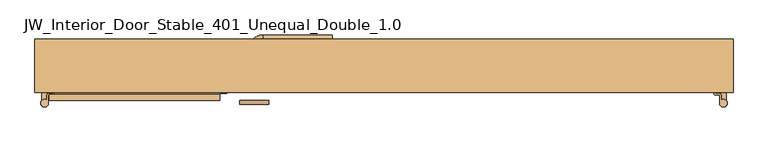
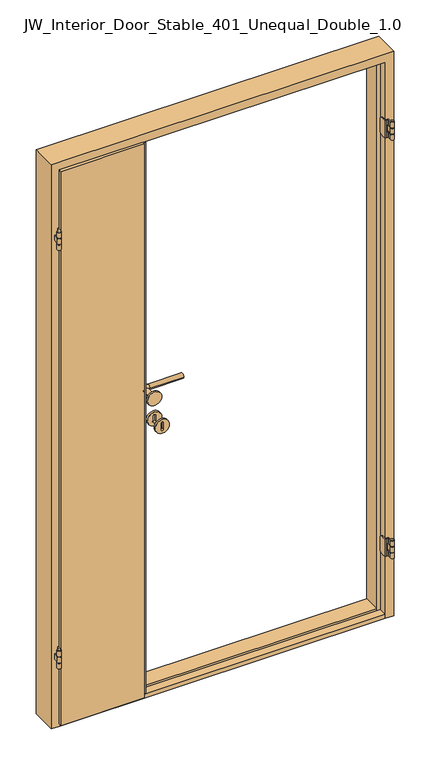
"""IFC4 building model written with IfcOpenShell, lengths in millimetres: door geometry, JW_Interior_Door_Stable_401_Unequal_Double_1.0 : 1290 x 2090 mm - M13 (M10+30) x M21."""

from ifc_helpers import new_model, si_unit, point, frame, frame_2d, origin, place, context, project, spatial, polyline, circle_curve, ellipse_curve, trimmed, segment, composite_curve, outline, extrude, faceted_brep, source, transform, mapped, element, save
from ifc_brep_helpers import plane_surface, cylinder_surface, revolved_surface, advanced_brep


def jw_interior_door_stable_401_unequal_double_1_0_84d4197c(model_context):
    return source(origin(), model_context, "Body", "SolidModel", [
        advanced_brep(
        [(-579.4018538, -63.3783893, 1847.5), (-576.904139, -68.4990677, 1847.5), (-576.904139, -54.9903905, 1847.5), (-576.0949734, -54.1812249, 1847.5), (-570.1129452, -54.1812249, 1847.5), (-566.9001557, -50.9684354, 1847.5), (-566.4114682, -41.6437223, 1847.5), (-566.1497884, -36.6505746, 1847.5), (-568.6463622, -36.5197347, 1847.5), (-568.908042, -41.5128824, 1847.5), (-569.4, -50.9, 1847.5), (-570.1997148, -51.6997148, 1847.5), (-576.2009982, -51.6997148, 1847.5), (-579.4018538, -54.9005704, 1847.5), (-579.4018538, -63.3783893, 1782.5), (-579.4018538, -54.9005704, 1782.5), (-576.2009982, -51.6997148, 1782.5), (-570.1997148, -51.6997148, 1782.5), (-569.4, -50.9, 1782.5), (-568.908042, -41.5128824, 1782.5), (-568.6463622, -36.5197347, 1782.5), (-566.1497884, -36.6505746, 1782.5), (-566.4114682, -41.6437223, 1782.5), (-566.9001557, -50.9684354, 1782.5), (-570.1129452, -54.1812249, 1782.5), (-576.0949734, -54.1812249, 1782.5), (-576.904139, -54.9903905, 1782.5), (-576.904139, -68.4990677, 1782.5), (-576.904139, -68.4990677, 1802.0), (-579.4018538, -63.3783893, 1802.0), (-579.4018538, -63.3783893, 1828.0), (-576.904139, -68.4990677, 1828.0), (-579.4018538, -54.9005704, 1802.0), (-579.4018538, -54.9005704, 1828.0), (-576.2009982, -51.6997148, 1802.0), (-576.2009982, -51.6997148, 1828.0), (-573.4, -51.6997148, 1802.0), (-573.4, -51.6997148, 1828.0), (-568.1230027, -26.5334394, 1837.5), (-568.1230027, -26.5334394, 1792.5), (-565.6264288, -26.6642792, 1837.5), (-565.6264288, -26.6642792, 1792.5), (-576.0949734, -54.1812249, 1828.0), (-573.4, -54.1812249, 1828.0), (-573.4, -54.1812249, 1802.0), (-576.0949734, -54.1812249, 1802.0), (-576.904139, -54.9903905, 1802.0), (-576.904139, -54.9903905, 1828.0)],
        [
            (0, 1, circle_curve(frame((-583.402064, -68.4990677, 1847.5), z_axis=(0.0, 0.0, 1.0), x_axis=(0.0, 1.0, 0.0)), 6.4979249)),
            (1, 2),
            (2, 3, circle_curve(frame((-576.0949734, -54.9903905, 1847.5), z_axis=(0.0, 0.0, -1.0), x_axis=(0.0, 1.0, 0.0)), 0.8091657)),
            (3, 4),
            (4, 5, circle_curve(frame((-570.1129452, -50.9684354, 1847.5), z_axis=(0.0, 0.0, 1.0), x_axis=(0.0, 1.0, 0.0)), 3.2127895)),
            (5, 6),
            (6, 7),
            (7, 8),
            (8, 9),
            (9, 10),
            (10, 11, circle_curve(frame((-570.1997148, -50.9, 1847.5), z_axis=(0.0, 0.0, -1.0), x_axis=(0.0, 1.0, 0.0)), 0.7997148)),
            (11, 12),
            (12, 13, circle_curve(frame((-576.2009982, -54.9005704, 1847.5), z_axis=(0.0, 0.0, 1.0), x_axis=(0.0, 1.0, 0.0)), 3.2008556)),
            (13, 0),
            (14, 15),
            (15, 16, circle_curve(frame((-576.2009982, -54.9005704, 1782.5), z_axis=(0.0, 0.0, -1.0), x_axis=(0.0, 1.0, 0.0)), 3.2008556)),
            (16, 17),
            (17, 18, circle_curve(frame((-570.1997148, -50.9, 1782.5), z_axis=(0.0, 0.0, 1.0), x_axis=(0.0, 1.0, 0.0)), 0.7997148)),
            (18, 19),
            (19, 20),
            (20, 21),
            (21, 22),
            (22, 23),
            (23, 24, circle_curve(frame((-570.1129452, -50.9684354, 1782.5), z_axis=(0.0, 0.0, -1.0), x_axis=(0.0, 1.0, 0.0)), 3.2127895)),
            (24, 25),
            (25, 26, circle_curve(frame((-576.0949734, -54.9903905, 1782.5), z_axis=(0.0, 0.0, 1.0), x_axis=(0.0, 1.0, 0.0)), 0.8091657)),
            (26, 27),
            (27, 14, circle_curve(frame((-583.402064, -68.4990677, 1782.5), z_axis=(0.0, 0.0, -1.0), x_axis=(0.0, 1.0, 0.0)), 6.4979249)),
            (27, 28),
            (28, 29, circle_curve(frame((-583.402064, -68.4990677, 1802.0), z_axis=(0.0, 0.0, -1.0), x_axis=(0.0, 1.0, 0.0)), 6.4979249)),
            (29, 14),
            (0, 30),
            (30, 31, circle_curve(frame((-583.402064, -68.4990677, 1828.0), z_axis=(0.0, 0.0, 1.0), x_axis=(0.0, 1.0, 0.0)), 6.4979249)),
            (31, 1),
            (29, 32),
            (32, 15),
            (13, 33),
            (33, 30),
            (32, 34, circle_curve(frame((-576.2009982, -54.9005704, 1802.0), z_axis=(0.0, 0.0, -1.0), x_axis=(0.0, 1.0, 0.0)), 3.2008556)),
            (34, 16),
            (12, 35),
            (35, 33, circle_curve(frame((-576.2009982, -54.9005704, 1828.0), z_axis=(0.0, 0.0, 1.0), x_axis=(0.0, 1.0, 0.0)), 3.2008556)),
            (11, 17),
            (34, 36),
            (36, 37),
            (37, 35),
            (10, 18),
            (8, 38, circle_curve(frame((-568.6463622, -36.5197347, 1837.5), z_axis=(-0.9986295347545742, 0.05233595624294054, 0.0), x_axis=(-0.05233595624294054, -0.9986295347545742, 0.0)), 10.0)),
            (38, 39),
            (39, 20, circle_curve(frame((-568.6463622, -36.5197347, 1792.5), z_axis=(-0.9986295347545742, 0.05233595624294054, 0.0), x_axis=(-0.05233595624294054, -0.9986295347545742, 0.0)), 10.0)),
            (38, 40),
            (40, 41),
            (41, 39),
            (21, 41, circle_curve(frame((-566.1497884, -36.6505746, 1792.5), z_axis=(0.9986295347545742, -0.05233595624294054, 0.0), x_axis=(-0.05233595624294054, -0.9986295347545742, 0.0)), 10.0)),
            (40, 7, circle_curve(frame((-566.1497884, -36.6505746, 1837.5), z_axis=(0.9986295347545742, -0.05233595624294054, 0.0), x_axis=(-0.05233595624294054, -0.9986295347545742, 0.0)), 10.0)),
            (5, 23),
            (4, 24),
            (3, 42),
            (42, 43),
            (43, 44),
            (44, 45),
            (45, 25),
            (45, 46, circle_curve(frame((-576.0949734, -54.9903905, 1802.0), z_axis=(0.0, 0.0, 1.0), x_axis=(0.0, 1.0, 0.0)), 0.8091657)),
            (46, 26),
            (2, 47),
            (47, 42, circle_curve(frame((-576.0949734, -54.9903905, 1828.0), z_axis=(0.0, 0.0, -1.0), x_axis=(0.0, 1.0, 0.0)), 0.8091657)),
            (31, 47),
            (46, 28),
            (37, 43),
            (44, 36),
        ],
        [
            plane_surface(frame((-579.4018538, -54.9005704, 1847.5), z_axis=(0.0, 0.0, 1.0), x_axis=(0.0, 1.0, 0.0))),
            plane_surface(frame((-579.4018538, -54.9005704, 1782.5), z_axis=(0.0, 0.0, -1.0), x_axis=(0.0, -1.0, 0.0))),
            cylinder_surface(frame((-583.402064, -68.4990677, 1782.5), z_axis=(0.0, 0.0, 1.0), x_axis=(0.0, 1.0, 0.0)), 6.4979249),
            plane_surface(frame((-579.4018538, -63.3783893, 1847.5), z_axis=(-1.0, 0.0, 0.0), x_axis=(0.0, 0.0, -1.0))),
            cylinder_surface(frame((-576.2009982, -54.9005704, 1782.5), z_axis=(0.0, 0.0, 1.0), x_axis=(0.0, 1.0, 0.0)), 3.2008556),
            plane_surface(frame((-576.2009982, -51.6997148, 1847.5), z_axis=(0.0, 1.0, 0.0), x_axis=(0.0, 0.0, -1.0))),
            revolved_surface(polyline([(-570.1997148, -50.1002852, 1782.5), (-570.1997148, -50.1002852, 1847.5)]), (-570.1997148, -50.9, 1782.5), (0.0, 0.0, -1.0)),
            plane_surface(frame((-569.4, -50.9, 1847.5), z_axis=(-0.9986295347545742, 0.05233595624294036, 0.0), x_axis=(0.0, 0.0, -1.0))),
            plane_surface(frame((-568.1230027, -26.5334394, 1847.5), z_axis=(0.05233595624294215, 0.998629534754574, 0.0), x_axis=(0.0, 0.0, -1.0))),
            plane_surface(frame((-565.6264288, -26.6642792, 1847.5), z_axis=(0.9986295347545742, -0.05233595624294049, 0.0), x_axis=(0.0, 0.0, -1.0))),
            cylinder_surface(frame((-570.1129452, -50.9684354, 1782.5), z_axis=(0.0, 0.0, 1.0), x_axis=(0.0, 1.0, 0.0)), 3.2127895),
            plane_surface(frame((-570.1129452, -54.1812249, 1847.5), z_axis=(0.0, -1.0, 0.0), x_axis=(0.0, 0.0, -1.0))),
            revolved_surface(polyline([(-576.0949734, -54.181224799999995, 1782.5), (-576.0949734, -54.181224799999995, 1802.0)]), (-576.0949734, -54.9903905, 1782.5), (0.0, 0.0, -1.0)),
            revolved_surface(polyline([(-576.0949734, -54.181224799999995, 1828.0), (-576.0949734, -54.181224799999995, 1847.5)]), (-576.0949734, -54.9903905, 1782.5), (0.0, 0.0, -1.0)),
            plane_surface(frame((-576.904139, -54.9903905, 1847.5), z_axis=(1.0, 0.0, 0.0), x_axis=(0.0, 0.0, -1.0))),
            plane_surface(frame((-590.9849846, -78.5564762, 1828.0), z_axis=(0.0, 0.0, -1.0), x_axis=(-1.0, 0.0, 0.0))),
            plane_surface(frame((-590.9849846, -78.5564762, 1802.0), z_axis=(0.0, 0.0, 1.0), x_axis=(1.0, 0.0, 0.0))),
            plane_surface(frame((-573.4, -48.5564762, 1828.0), z_axis=(-1.0, 0.0, 0.0), x_axis=(0.0, 0.0, -1.0))),
            cylinder_surface(frame((-573.6395099, -36.2580549, 1792.5), z_axis=(-0.9986295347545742, 0.05233595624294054, 0.0), x_axis=(-0.05233595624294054, -0.9986295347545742, 0.0)), 10.0),
            cylinder_surface(frame((-573.6395099, -36.2580549, 1837.5), z_axis=(-0.9986295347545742, 0.05233595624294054, 0.0), x_axis=(-0.05233595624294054, -0.9986295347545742, 0.0)), 10.0),
        ],
        [
            (0, [[1, 2, 3, 4, 5, 6, 7, 8, 9, 10, 11, 12, 13, 14]]),
            (1, [[15, 16, 17, 18, 19, 20, 21, 22, 23, 24, 25, 26, 27, 28]]),
            (2, [[29, 30, 31, -28]]),
            (2, [[32, 33, 34, -1]]),
            (3, [[-31, 35, 36, -15]]),
            (3, [[37, 38, -32, -14]]),
            (4, [[-36, 39, 40, -16]]),
            (4, [[41, 42, -37, -13]]),
            (5, [[43, -17, -40, 44, 45, 46, -41, -12]]),
            (6, [[47, -18, -43, -11]]),
            (7, [[-10, -9, 48, 49, 50, -20, -19, -47]]),
            (8, [[51, 52, 53, -49]]),
            (9, [[-23, -22, 54, -52, 55, -7, -6, 56]]),
            (10, [[57, -24, -56, -5]]),
            (11, [[58, 59, 60, 61, 62, -25, -57, -4]]),
            (12, [[-62, 63, 64, -26]]),
            (13, [[65, 66, -58, -3]]),
            (14, [[-34, 67, -65, -2]]),
            (14, [[-64, 68, -29, -27]]),
            (15, [[-59, -66, -67, -33, -38, -42, -46, 69]]),
            (16, [[-44, -39, -35, -30, -68, -63, -61, 70]]),
            (17, [[-45, -70, -60, -69]]),
            (18, [[-50, -53, -54, -21]]),
            (19, [[-55, -51, -48, -8]]),
        ],
    ),
        extrude(outline(composite_curve([segment(trimmed(circle_curve(frame_2d((-583.4, -68.5)), 3.75), [point((-579.65, -68.5))], [point((-587.15, -68.5))], False, "CARTESIAN"), True, "CONTINUOUS"), segment(trimmed(circle_curve(frame_2d((-583.4, -68.5)), 3.75), [point((-587.15, -68.5))], [point((-579.65, -68.5))], False, "CARTESIAN"), True, "CONTINUOUS")], self_intersect=False)), frame((0.0, 0.0, 1782.5), z_axis=(0.0, 0.0, 1.0), x_axis=(1.0, 0.0, 0.0)), (0.0, 0.0, 1.0), 65.0),
        extrude(outline(composite_curve([segment(polyline([(-588.4, -64.3466881), (-588.4, -50.0), (-578.4, -50.0), (-578.4, -64.3466881)]), True, "CONTINUOUS"), segment(trimmed(circle_curve(frame_2d((-583.4, -68.5)), 6.5), [point((-578.4, -64.3466881))], [point((-588.4, -64.3466881))], False, "CARTESIAN"), True, "CONTINUOUS")], self_intersect=False)), frame((0.0, 0.0, 1805.0), z_axis=(0.0, 0.0, 1.0), x_axis=(1.0, 0.0, 0.0)), (0.0, 0.0, 1.0), 20.0),
        advanced_brep(
        [(-579.4018538, -63.3783893, 297.5), (-576.904139, -68.4990677, 297.5), (-576.904139, -54.9903905, 297.5), (-576.0949734, -54.1812249, 297.5), (-570.1129452, -54.1812249, 297.5), (-566.9001557, -50.9684354, 297.5), (-566.4114682, -41.6437223, 297.5), (-566.1497884, -36.6505746, 297.5), (-568.6463622, -36.5197347, 297.5), (-568.908042, -41.5128824, 297.5), (-569.4, -50.9, 297.5), (-570.1997148, -51.6997148, 297.5), (-576.2009982, -51.6997148, 297.5), (-579.4018538, -54.9005704, 297.5), (-579.4018538, -63.3783893, 232.5), (-579.4018538, -54.9005704, 232.5), (-576.2009982, -51.6997148, 232.5), (-570.1997148, -51.6997148, 232.5), (-569.4, -50.9, 232.5), (-568.908042, -41.5128824, 232.5), (-568.6463622, -36.5197347, 232.5), (-566.1497884, -36.6505746, 232.5), (-566.4114682, -41.6437223, 232.5), (-566.9001557, -50.9684354, 232.5), (-570.1129452, -54.1812249, 232.5), (-576.0949734, -54.1812249, 232.5), (-576.904139, -54.9903905, 232.5), (-576.904139, -68.4990677, 232.5), (-576.904139, -68.4990677, 252.0), (-579.4018538, -63.3783893, 252.0), (-579.4018538, -63.3783893, 278.0), (-576.904139, -68.4990677, 278.0), (-579.4018538, -54.9005704, 252.0), (-579.4018538, -54.9005704, 278.0), (-576.2009982, -51.6997148, 252.0), (-576.2009982, -51.6997148, 278.0), (-573.4, -51.6997148, 252.0), (-573.4, -51.6997148, 278.0), (-568.1230027, -26.5334394, 287.5), (-568.1230027, -26.5334394, 242.5), (-565.6264288, -26.6642792, 287.5), (-565.6264288, -26.6642792, 242.5), (-576.0949734, -54.1812249, 278.0), (-573.4, -54.1812249, 278.0), (-573.4, -54.1812249, 252.0), (-576.0949734, -54.1812249, 252.0), (-576.904139, -54.9903905, 252.0), (-576.904139, -54.9903905, 278.0)],
        [
            (0, 1, circle_curve(frame((-583.402064, -68.4990677, 297.5), z_axis=(0.0, 0.0, 1.0), x_axis=(0.0, 1.0, 0.0)), 6.4979249)),
            (1, 2),
            (2, 3, circle_curve(frame((-576.0949734, -54.9903905, 297.5), z_axis=(0.0, 0.0, -1.0), x_axis=(0.0, 1.0, 0.0)), 0.8091657)),
            (3, 4),
            (4, 5, circle_curve(frame((-570.1129452, -50.9684354, 297.5), z_axis=(0.0, 0.0, 1.0), x_axis=(0.0, 1.0, 0.0)), 3.2127895)),
            (5, 6),
            (6, 7),
            (7, 8),
            (8, 9),
            (9, 10),
            (10, 11, circle_curve(frame((-570.1997148, -50.9, 297.5), z_axis=(0.0, 0.0, -1.0), x_axis=(0.0, 1.0, 0.0)), 0.7997148)),
            (11, 12),
            (12, 13, circle_curve(frame((-576.2009982, -54.9005704, 297.5), z_axis=(0.0, 0.0, 1.0), x_axis=(0.0, 1.0, 0.0)), 3.2008556)),
            (13, 0),
            (14, 15),
            (15, 16, circle_curve(frame((-576.2009982, -54.9005704, 232.5), z_axis=(0.0, 0.0, -1.0), x_axis=(0.0, 1.0, 0.0)), 3.2008556)),
            (16, 17),
            (17, 18, circle_curve(frame((-570.1997148, -50.9, 232.5), z_axis=(0.0, 0.0, 1.0), x_axis=(0.0, 1.0, 0.0)), 0.7997148)),
            (18, 19),
            (19, 20),
            (20, 21),
            (21, 22),
            (22, 23),
            (23, 24, circle_curve(frame((-570.1129452, -50.9684354, 232.5), z_axis=(0.0, 0.0, -1.0), x_axis=(0.0, 1.0, 0.0)), 3.2127895)),
            (24, 25),
            (25, 26, circle_curve(frame((-576.0949734, -54.9903905, 232.5), z_axis=(0.0, 0.0, 1.0), x_axis=(0.0, 1.0, 0.0)), 0.8091657)),
            (26, 27),
            (27, 14, circle_curve(frame((-583.402064, -68.4990677, 232.5), z_axis=(0.0, 0.0, -1.0), x_axis=(0.0, 1.0, 0.0)), 6.4979249)),
            (27, 28),
            (28, 29, circle_curve(frame((-583.402064, -68.4990677, 252.0), z_axis=(0.0, 0.0, -1.0), x_axis=(0.0, 1.0, 0.0)), 6.4979249)),
            (29, 14),
            (0, 30),
            (30, 31, circle_curve(frame((-583.402064, -68.4990677, 278.0), z_axis=(0.0, 0.0, 1.0), x_axis=(0.0, 1.0, 0.0)), 6.4979249)),
            (31, 1),
            (29, 32),
            (32, 15),
            (13, 33),
            (33, 30),
            (32, 34, circle_curve(frame((-576.2009982, -54.9005704, 252.0), z_axis=(0.0, 0.0, -1.0), x_axis=(0.0, 1.0, 0.0)), 3.2008556)),
            (34, 16),
            (12, 35),
            (35, 33, circle_curve(frame((-576.2009982, -54.9005704, 278.0), z_axis=(0.0, 0.0, 1.0), x_axis=(0.0, 1.0, 0.0)), 3.2008556)),
            (11, 17),
            (34, 36),
            (36, 37),
            (37, 35),
            (10, 18),
            (8, 38, circle_curve(frame((-568.6463622, -36.5197347, 287.5), z_axis=(-0.9986295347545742, 0.05233595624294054, 0.0), x_axis=(-0.05233595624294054, -0.9986295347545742, 0.0)), 10.0)),
            (38, 39),
            (39, 20, circle_curve(frame((-568.6463622, -36.5197347, 242.5), z_axis=(-0.9986295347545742, 0.05233595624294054, 0.0), x_axis=(-0.05233595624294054, -0.9986295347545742, 0.0)), 10.0)),
            (38, 40),
            (40, 41),
            (41, 39),
            (21, 41, circle_curve(frame((-566.1497884, -36.6505746, 242.5), z_axis=(0.9986295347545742, -0.05233595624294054, 0.0), x_axis=(-0.05233595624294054, -0.9986295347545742, 0.0)), 10.0)),
            (40, 7, circle_curve(frame((-566.1497884, -36.6505746, 287.5), z_axis=(0.9986295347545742, -0.05233595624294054, 0.0), x_axis=(-0.05233595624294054, -0.9986295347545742, 0.0)), 10.0)),
            (5, 23),
            (4, 24),
            (3, 42),
            (42, 43),
            (43, 44),
            (44, 45),
            (45, 25),
            (45, 46, circle_curve(frame((-576.0949734, -54.9903905, 252.0), z_axis=(0.0, 0.0, 1.0), x_axis=(0.0, 1.0, 0.0)), 0.8091657)),
            (46, 26),
            (2, 47),
            (47, 42, circle_curve(frame((-576.0949734, -54.9903905, 278.0), z_axis=(0.0, 0.0, -1.0), x_axis=(0.0, 1.0, 0.0)), 0.8091657)),
            (31, 47),
            (46, 28),
            (37, 43),
            (44, 36),
        ],
        [
            plane_surface(frame((-579.4018538, -54.9005704, 297.5), z_axis=(0.0, 0.0, 1.0), x_axis=(0.0, 1.0, 0.0))),
            plane_surface(frame((-579.4018538, -54.9005704, 232.5), z_axis=(0.0, 0.0, -1.0), x_axis=(0.0, -1.0, 0.0))),
            cylinder_surface(frame((-583.402064, -68.4990677, 232.5), z_axis=(0.0, 0.0, 1.0), x_axis=(0.0, 1.0, 0.0)), 6.4979249),
            plane_surface(frame((-579.4018538, -63.3783893, 297.5), z_axis=(-1.0, 0.0, 0.0), x_axis=(0.0, 0.0, -1.0))),
            cylinder_surface(frame((-576.2009982, -54.9005704, 232.5), z_axis=(0.0, 0.0, 1.0), x_axis=(0.0, 1.0, 0.0)), 3.2008556),
            plane_surface(frame((-576.2009982, -51.6997148, 297.5), z_axis=(0.0, 1.0, 0.0), x_axis=(0.0, 0.0, -1.0))),
            revolved_surface(polyline([(-570.1997148, -50.1002852, 232.5), (-570.1997148, -50.1002852, 297.5)]), (-570.1997148, -50.9, 232.5), (0.0, 0.0, -1.0)),
            plane_surface(frame((-569.4, -50.9, 297.5), z_axis=(-0.9986295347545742, 0.05233595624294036, 0.0), x_axis=(0.0, 0.0, -1.0))),
            plane_surface(frame((-568.1230027, -26.5334394, 297.5), z_axis=(0.05233595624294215, 0.998629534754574, 0.0), x_axis=(0.0, 0.0, -1.0))),
            plane_surface(frame((-565.6264288, -26.6642792, 297.5), z_axis=(0.9986295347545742, -0.05233595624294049, 0.0), x_axis=(0.0, 0.0, -1.0))),
            cylinder_surface(frame((-570.1129452, -50.9684354, 232.5), z_axis=(0.0, 0.0, 1.0), x_axis=(0.0, 1.0, 0.0)), 3.2127895),
            plane_surface(frame((-570.1129452, -54.1812249, 297.5), z_axis=(0.0, -1.0, 0.0), x_axis=(0.0, 0.0, -1.0))),
            revolved_surface(polyline([(-576.0949734, -54.181224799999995, 232.5), (-576.0949734, -54.181224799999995, 252.0)]), (-576.0949734, -54.9903905, 232.5), (0.0, 0.0, -1.0)),
            revolved_surface(polyline([(-576.0949734, -54.181224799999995, 278.0), (-576.0949734, -54.181224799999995, 297.5)]), (-576.0949734, -54.9903905, 232.5), (0.0, 0.0, -1.0)),
            plane_surface(frame((-576.904139, -54.9903905, 297.5), z_axis=(1.0, 0.0, 0.0), x_axis=(0.0, 0.0, -1.0))),
            plane_surface(frame((-590.9849846, -78.5564762, 278.0), z_axis=(0.0, 0.0, -1.0), x_axis=(-1.0, 0.0, 0.0))),
            plane_surface(frame((-590.9849846, -78.5564762, 252.0), z_axis=(0.0, 0.0, 1.0), x_axis=(1.0, 0.0, 0.0))),
            plane_surface(frame((-573.4, -48.5564762, 278.0), z_axis=(-1.0, 0.0, 0.0), x_axis=(0.0, 0.0, -1.0))),
            cylinder_surface(frame((-573.6395099, -36.2580549, 242.5), z_axis=(-0.9986295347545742, 0.05233595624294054, 0.0), x_axis=(-0.05233595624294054, -0.9986295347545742, 0.0)), 10.0),
            cylinder_surface(frame((-573.6395099, -36.2580549, 287.5), z_axis=(-0.9986295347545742, 0.05233595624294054, 0.0), x_axis=(-0.05233595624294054, -0.9986295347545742, 0.0)), 10.0),
        ],
        [
            (0, [[1, 2, 3, 4, 5, 6, 7, 8, 9, 10, 11, 12, 13, 14]]),
            (1, [[15, 16, 17, 18, 19, 20, 21, 22, 23, 24, 25, 26, 27, 28]]),
            (2, [[29, 30, 31, -28]]),
            (2, [[32, 33, 34, -1]]),
            (3, [[-31, 35, 36, -15]]),
            (3, [[37, 38, -32, -14]]),
            (4, [[-36, 39, 40, -16]]),
            (4, [[41, 42, -37, -13]]),
            (5, [[43, -17, -40, 44, 45, 46, -41, -12]]),
            (6, [[47, -18, -43, -11]]),
            (7, [[-10, -9, 48, 49, 50, -20, -19, -47]]),
            (8, [[51, 52, 53, -49]]),
            (9, [[-23, -22, 54, -52, 55, -7, -6, 56]]),
            (10, [[57, -24, -56, -5]]),
            (11, [[58, 59, 60, 61, 62, -25, -57, -4]]),
            (12, [[-62, 63, 64, -26]]),
            (13, [[65, 66, -58, -3]]),
            (14, [[-34, 67, -65, -2]]),
            (14, [[-64, 68, -29, -27]]),
            (15, [[-59, -66, -67, -33, -38, -42, -46, 69]]),
            (16, [[-44, -39, -35, -30, -68, -63, -61, 70]]),
            (17, [[-45, -70, -60, -69]]),
            (18, [[-50, -53, -54, -21]]),
            (19, [[-55, -51, -48, -8]]),
        ],
    ),
        extrude(outline(composite_curve([segment(trimmed(circle_curve(frame_2d((-583.4, -68.5)), 3.75), [point((-579.65, -68.5))], [point((-587.15, -68.5))], False, "CARTESIAN"), True, "CONTINUOUS"), segment(trimmed(circle_curve(frame_2d((-583.4, -68.5)), 3.75), [point((-587.15, -68.5))], [point((-579.65, -68.5))], False, "CARTESIAN"), True, "CONTINUOUS")], self_intersect=False)), frame((0.0, 0.0, 232.5), z_axis=(0.0, 0.0, 1.0), x_axis=(1.0, 0.0, 0.0)), (0.0, 0.0, 1.0), 65.0),
        extrude(outline(composite_curve([segment(polyline([(-588.4, -64.3466881), (-588.4, -50.0), (-578.4, -50.0), (-578.4, -64.3466881)]), True, "CONTINUOUS"), segment(trimmed(circle_curve(frame_2d((-583.4, -68.5)), 6.5), [point((-578.4, -64.3466881))], [point((-588.4, -64.3466881))], False, "CARTESIAN"), True, "CONTINUOUS")], self_intersect=False)), frame((0.0, 0.0, 255.0), z_axis=(0.0, 0.0, 1.0), x_axis=(1.0, 0.0, 0.0)), (0.0, 0.0, 1.0), 20.0),
        faceted_brep([(-270.0, -23.5, 18.0), (-564.9021956, -23.5, 18.0), (-564.9021956, -23.5, 2058.0), (-270.0, -23.5, 2058.0), (-270.0, -51.5, 2058.0), (-270.0, -51.5, 18.0), (-567.0, -53.5, 18.0), (-567.0, -53.5, 2058.0), (-282.0, -51.5, 18.0), (-282.0, -53.5, 18.0), (-575.0, -63.5, 12.0), (-282.0, -63.5, 12.0), (-282.0, -63.5, 2064.0), (-575.0, -63.5, 2064.0), (-575.0, -53.5, 2064.0), (-575.0, -53.5, 12.0), (-282.0, -53.5, 12.0), (-282.0, -53.5, 2064.0), (-282.0, -53.5, 2058.0), (-282.0, -51.5, 2058.0)], [[[0, 1, 2, 3]], [[3, 4, 5, 0]], [[1, 6, 7, 2]], [[6, 1, 0, 5, 8, 9]], [[10, 11, 12, 13]], [[13, 14, 15, 10]], [[10, 15, 16, 11]], [[16, 15, 14, 17, 18, 7, 6, 9]], [[4, 19, 8, 5]], [[12, 17, 14, 13]], [[18, 19, 4, 3, 2, 7]], [[11, 16, 9, 8, 19, 18, 17, 12]]]),
        advanced_brep(
        [(579.4018538, -63.3783893, 1847.5), (579.4018538, -54.9005704, 1847.5), (576.2009982, -51.6997148, 1847.5), (570.1997148, -51.6997148, 1847.5), (569.4, -50.9, 1847.5), (568.908042, -41.5128824, 1847.5), (568.6463622, -36.5197347, 1847.5), (566.1497884, -36.6505746, 1847.5), (566.4114682, -41.6437223, 1847.5), (566.9001557, -50.9684354, 1847.5), (570.1129452, -54.1812249, 1847.5), (576.0949734, -54.1812249, 1847.5), (576.904139, -54.9903905, 1847.5), (576.904139, -68.4990677, 1847.5), (579.4018538, -63.3783893, 1782.5), (576.904139, -68.4990677, 1782.5), (576.904139, -54.9903905, 1782.5), (576.0949734, -54.1812249, 1782.5), (570.1129452, -54.1812249, 1782.5), (566.9001557, -50.9684354, 1782.5), (566.4114682, -41.6437223, 1782.5), (566.1497884, -36.6505746, 1782.5), (568.6463622, -36.5197347, 1782.5), (568.908042, -41.5128824, 1782.5), (569.4, -50.9, 1782.5), (570.1997148, -51.6997148, 1782.5), (576.2009982, -51.6997148, 1782.5), (579.4018538, -54.9005704, 1782.5), (576.904139, -68.4990677, 1828.0), (579.4018538, -63.3783893, 1828.0), (579.4018538, -63.3783893, 1802.0), (576.904139, -68.4990677, 1802.0), (579.4018538, -54.9005704, 1828.0), (579.4018538, -54.9005704, 1802.0), (576.2009982, -51.6997148, 1828.0), (576.2009982, -51.6997148, 1802.0), (573.4, -51.6997148, 1828.0), (573.4, -51.6997148, 1802.0), (568.1230027, -26.5334394, 1792.5), (568.1230027, -26.5334394, 1837.5), (565.6264288, -26.6642792, 1792.5), (565.6264288, -26.6642792, 1837.5), (576.0949734, -54.1812249, 1802.0), (573.4, -54.1812249, 1802.0), (573.4, -54.1812249, 1828.0), (576.0949734, -54.1812249, 1828.0), (576.904139, -54.9903905, 1828.0), (576.904139, -54.9903905, 1802.0)],
        [
            (0, 1),
            (1, 2, circle_curve(frame((576.2009982, -54.9005704, 1847.5), z_axis=(0.0, 0.0, 1.0), x_axis=(0.0, 1.0, 0.0)), 3.2008556)),
            (2, 3),
            (3, 4, circle_curve(frame((570.1997148, -50.9, 1847.5), z_axis=(0.0, 0.0, -1.0), x_axis=(0.0, 1.0, 0.0)), 0.7997148)),
            (4, 5),
            (5, 6),
            (6, 7),
            (7, 8),
            (8, 9),
            (9, 10, circle_curve(frame((570.1129452, -50.9684354, 1847.5), z_axis=(0.0, 0.0, 1.0), x_axis=(0.0, 1.0, 0.0)), 3.2127895)),
            (10, 11),
            (11, 12, circle_curve(frame((576.0949734, -54.9903905, 1847.5), z_axis=(0.0, 0.0, -1.0), x_axis=(0.0, 1.0, 0.0)), 0.8091657)),
            (12, 13),
            (13, 0, circle_curve(frame((583.402064, -68.4990677, 1847.5), z_axis=(0.0, 0.0, 1.0), x_axis=(0.0, 1.0, 0.0)), 6.4979249)),
            (14, 15, circle_curve(frame((583.402064, -68.4990677, 1782.5), z_axis=(0.0, 0.0, -1.0), x_axis=(0.0, 1.0, 0.0)), 6.4979249)),
            (15, 16),
            (16, 17, circle_curve(frame((576.0949734, -54.9903905, 1782.5), z_axis=(0.0, 0.0, 1.0), x_axis=(0.0, 1.0, 0.0)), 0.8091657)),
            (17, 18),
            (18, 19, circle_curve(frame((570.1129452, -50.9684354, 1782.5), z_axis=(0.0, 0.0, -1.0), x_axis=(0.0, 1.0, 0.0)), 3.2127895)),
            (19, 20),
            (20, 21),
            (21, 22),
            (22, 23),
            (23, 24),
            (24, 25, circle_curve(frame((570.1997148, -50.9, 1782.5), z_axis=(0.0, 0.0, 1.0), x_axis=(0.0, 1.0, 0.0)), 0.7997148)),
            (25, 26),
            (26, 27, circle_curve(frame((576.2009982, -54.9005704, 1782.5), z_axis=(0.0, 0.0, -1.0), x_axis=(0.0, 1.0, 0.0)), 3.2008556)),
            (27, 14),
            (13, 28),
            (28, 29, circle_curve(frame((583.402064, -68.4990677, 1828.0), z_axis=(0.0, 0.0, 1.0), x_axis=(0.0, 1.0, 0.0)), 6.4979249)),
            (29, 0),
            (14, 30),
            (30, 31, circle_curve(frame((583.402064, -68.4990677, 1802.0), z_axis=(0.0, 0.0, -1.0), x_axis=(0.0, 1.0, 0.0)), 6.4979249)),
            (31, 15),
            (29, 32),
            (32, 1),
            (27, 33),
            (33, 30),
            (32, 34, circle_curve(frame((576.2009982, -54.9005704, 1828.0), z_axis=(0.0, 0.0, 1.0), x_axis=(0.0, 1.0, 0.0)), 3.2008556)),
            (34, 2),
            (26, 35),
            (35, 33, circle_curve(frame((576.2009982, -54.9005704, 1802.0), z_axis=(0.0, 0.0, -1.0), x_axis=(0.0, 1.0, 0.0)), 3.2008556)),
            (34, 36),
            (36, 37),
            (37, 35),
            (25, 3),
            (24, 4),
            (22, 38, circle_curve(frame((568.6463622, -36.5197347, 1792.5), z_axis=(0.9986295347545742, 0.05233595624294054, 0.0), x_axis=(0.05233595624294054, -0.9986295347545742, 0.0)), 10.0)),
            (38, 39),
            (39, 6, circle_curve(frame((568.6463622, -36.5197347, 1837.5), z_axis=(0.9986295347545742, 0.05233595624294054, 0.0), x_axis=(0.05233595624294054, -0.9986295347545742, 0.0)), 10.0)),
            (38, 40),
            (40, 41),
            (41, 39),
            (19, 9),
            (7, 41, circle_curve(frame((566.1497884, -36.6505746, 1837.5), z_axis=(-0.9986295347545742, -0.05233595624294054, 0.0), x_axis=(0.05233595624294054, -0.9986295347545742, 0.0)), 10.0)),
            (40, 21, circle_curve(frame((566.1497884, -36.6505746, 1792.5), z_axis=(-0.9986295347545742, -0.05233595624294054, 0.0), x_axis=(0.05233595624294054, -0.9986295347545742, 0.0)), 10.0)),
            (18, 10),
            (17, 42),
            (42, 43),
            (43, 44),
            (44, 45),
            (45, 11),
            (45, 46, circle_curve(frame((576.0949734, -54.9903905, 1828.0), z_axis=(0.0, 0.0, -1.0), x_axis=(0.0, 1.0, 0.0)), 0.8091657)),
            (46, 12),
            (16, 47),
            (47, 42, circle_curve(frame((576.0949734, -54.9903905, 1802.0), z_axis=(0.0, 0.0, 1.0), x_axis=(0.0, 1.0, 0.0)), 0.8091657)),
            (46, 28),
            (31, 47),
            (44, 36),
            (37, 43),
        ],
        [
            plane_surface(frame((579.4018538, -54.9005704, 1847.5), z_axis=(0.0, 0.0, 1.0), x_axis=(0.0, 1.0, 0.0))),
            plane_surface(frame((579.4018538, -54.9005704, 1782.5), z_axis=(0.0, 0.0, -1.0), x_axis=(0.0, -1.0, 0.0))),
            cylinder_surface(frame((583.402064, -68.4990677, 1782.5), z_axis=(0.0, 0.0, 1.0), x_axis=(0.0, 1.0, 0.0)), 6.4979249),
            plane_surface(frame((579.4018538, -63.3783893, 1847.5), z_axis=(1.0, 0.0, 0.0), x_axis=(0.0, 0.0, -1.0))),
            cylinder_surface(frame((576.2009982, -54.9005704, 1782.5), z_axis=(0.0, 0.0, 1.0), x_axis=(0.0, 1.0, 0.0)), 3.2008556),
            plane_surface(frame((576.2009982, -51.6997148, 1847.5), z_axis=(0.0, 1.0, 0.0), x_axis=(0.0, 0.0, -1.0))),
            revolved_surface(polyline([(570.1997148, -50.1002852, 1782.5), (570.1997148, -50.1002852, 1847.5)]), (570.1997148, -50.9, 1782.5), (0.0, 0.0, -1.0)),
            plane_surface(frame((569.4, -50.9, 1847.5), z_axis=(0.9986295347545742, 0.05233595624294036, 0.0), x_axis=(0.0, 0.0, -1.0))),
            plane_surface(frame((568.1230027, -26.5334394, 1847.5), z_axis=(-0.05233595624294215, 0.998629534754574, 0.0), x_axis=(0.0, 0.0, -1.0))),
            plane_surface(frame((565.6264288, -26.6642792, 1847.5), z_axis=(-0.9986295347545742, -0.05233595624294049, 0.0), x_axis=(0.0, 0.0, -1.0))),
            cylinder_surface(frame((570.1129452, -50.9684354, 1782.5), z_axis=(0.0, 0.0, 1.0), x_axis=(0.0, 1.0, 0.0)), 3.2127895),
            plane_surface(frame((570.1129452, -54.1812249, 1847.5), z_axis=(0.0, -1.0, 0.0), x_axis=(0.0, 0.0, -1.0))),
            revolved_surface(polyline([(576.0949734, -54.181224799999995, 1828.0), (576.0949734, -54.181224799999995, 1847.5)]), (576.0949734, -54.9903905, 1782.5), (0.0, 0.0, -1.0)),
            revolved_surface(polyline([(576.0949734, -54.181224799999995, 1782.5), (576.0949734, -54.181224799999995, 1802.0)]), (576.0949734, -54.9903905, 1782.5), (0.0, 0.0, -1.0)),
            plane_surface(frame((576.904139, -54.9903905, 1847.5), z_axis=(-1.0, 0.0, 0.0), x_axis=(0.0, 0.0, -1.0))),
            plane_surface(frame((590.9849846, -78.5564762, 1828.0), z_axis=(0.0, 0.0, -1.0), x_axis=(1.0, 0.0, 0.0))),
            plane_surface(frame((590.9849846, -78.5564762, 1802.0), z_axis=(0.0, 0.0, 1.0), x_axis=(-1.0, 0.0, 0.0))),
            plane_surface(frame((573.4, -48.5564762, 1828.0), z_axis=(1.0, 0.0, 0.0), x_axis=(0.0, 0.0, -1.0))),
            cylinder_surface(frame((573.6395099, -36.2580549, 1792.5), z_axis=(0.9986295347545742, 0.05233595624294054, 0.0), x_axis=(0.05233595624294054, -0.9986295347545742, 0.0)), 10.0),
            cylinder_surface(frame((573.6395099, -36.2580549, 1837.5), z_axis=(0.9986295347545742, 0.05233595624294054, 0.0), x_axis=(0.05233595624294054, -0.9986295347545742, 0.0)), 10.0),
        ],
        [
            (0, [[1, 2, 3, 4, 5, 6, 7, 8, 9, 10, 11, 12, 13, 14]]),
            (1, [[15, 16, 17, 18, 19, 20, 21, 22, 23, 24, 25, 26, 27, 28]]),
            (2, [[-14, 29, 30, 31]]),
            (2, [[-15, 32, 33, 34]]),
            (3, [[-1, -31, 35, 36]]),
            (3, [[-28, 37, 38, -32]]),
            (4, [[-2, -36, 39, 40]]),
            (4, [[-27, 41, 42, -37]]),
            (5, [[-3, -40, 43, 44, 45, -41, -26, 46]]),
            (6, [[-4, -46, -25, 47]]),
            (7, [[-47, -24, -23, 48, 49, 50, -6, -5]]),
            (8, [[-49, 51, 52, 53]]),
            (9, [[54, -9, -8, 55, -52, 56, -21, -20]]),
            (10, [[-10, -54, -19, 57]]),
            (11, [[-11, -57, -18, 58, 59, 60, 61, 62]]),
            (12, [[-12, -62, 63, 64]]),
            (13, [[-17, 65, 66, -58]]),
            (14, [[-13, -64, 67, -29]]),
            (14, [[-16, -34, 68, -65]]),
            (15, [[69, -43, -39, -35, -30, -67, -63, -61]]),
            (16, [[70, -59, -66, -68, -33, -38, -42, -45]]),
            (17, [[-69, -60, -70, -44]]),
            (18, [[-22, -56, -51, -48]]),
            (19, [[-7, -50, -53, -55]]),
        ],
    ),
        extrude(outline(composite_curve([segment(trimmed(circle_curve(frame_2d((583.4, -68.5)), 3.75), [point((579.65, -68.5))], [point((587.15, -68.5))], False, "CARTESIAN"), True, "CONTINUOUS"), segment(trimmed(circle_curve(frame_2d((583.4, -68.5)), 3.75), [point((587.15, -68.5))], [point((579.65, -68.5))], False, "CARTESIAN"), True, "CONTINUOUS")], self_intersect=False)), frame((0.0, 0.0, 1782.5), z_axis=(0.0, 0.0, 1.0), x_axis=(1.0, 0.0, 0.0)), (0.0, 0.0, 1.0), 65.0),
        extrude(outline(composite_curve([segment(trimmed(circle_curve(frame_2d((583.4, -68.5)), 6.5), [point((588.4, -64.3466881))], [point((578.4, -64.3466881))], False, "CARTESIAN"), True, "CONTINUOUS"), segment(polyline([(578.4, -64.3466881), (578.4, -50.0), (588.4, -50.0), (588.4, -64.3466881)]), True, "CONTINUOUS")], self_intersect=False)), frame((0.0, 0.0, 1805.0), z_axis=(0.0, 0.0, 1.0), x_axis=(1.0, 0.0, 0.0)), (0.0, 0.0, 1.0), 20.0),
        advanced_brep(
        [(579.4018538, -63.3783893, 297.5), (579.4018538, -54.9005704, 297.5), (576.2009982, -51.6997148, 297.5), (570.1997148, -51.6997148, 297.5), (569.4, -50.9, 297.5), (568.908042, -41.5128824, 297.5), (568.6463622, -36.5197347, 297.5), (566.1497884, -36.6505746, 297.5), (566.4114682, -41.6437223, 297.5), (566.9001557, -50.9684354, 297.5), (570.1129452, -54.1812249, 297.5), (576.0949734, -54.1812249, 297.5), (576.904139, -54.9903905, 297.5), (576.904139, -68.4990677, 297.5), (579.4018538, -63.3783893, 232.5), (576.904139, -68.4990677, 232.5), (576.904139, -54.9903905, 232.5), (576.0949734, -54.1812249, 232.5), (570.1129452, -54.1812249, 232.5), (566.9001557, -50.9684354, 232.5), (566.4114682, -41.6437223, 232.5), (566.1497884, -36.6505746, 232.5), (568.6463622, -36.5197347, 232.5), (568.908042, -41.5128824, 232.5), (569.4, -50.9, 232.5), (570.1997148, -51.6997148, 232.5), (576.2009982, -51.6997148, 232.5), (579.4018538, -54.9005704, 232.5), (576.904139, -68.4990677, 278.0), (579.4018538, -63.3783893, 278.0), (579.4018538, -63.3783893, 252.0), (576.904139, -68.4990677, 252.0), (579.4018538, -54.9005704, 278.0), (579.4018538, -54.9005704, 252.0), (576.2009982, -51.6997148, 278.0), (576.2009982, -51.6997148, 252.0), (573.4, -51.6997148, 278.0), (573.4, -51.6997148, 252.0), (568.1230027, -26.5334394, 242.5), (568.1230027, -26.5334394, 287.5), (565.6264288, -26.6642792, 242.5), (565.6264288, -26.6642792, 287.5), (576.0949734, -54.1812249, 252.0), (573.4, -54.1812249, 252.0), (573.4, -54.1812249, 278.0), (576.0949734, -54.1812249, 278.0), (576.904139, -54.9903905, 278.0), (576.904139, -54.9903905, 252.0)],
        [
            (0, 1),
            (1, 2, circle_curve(frame((576.2009982, -54.9005704, 297.5), z_axis=(0.0, 0.0, 1.0), x_axis=(0.0, 1.0, 0.0)), 3.2008556)),
            (2, 3),
            (3, 4, circle_curve(frame((570.1997148, -50.9, 297.5), z_axis=(0.0, 0.0, -1.0), x_axis=(0.0, 1.0, 0.0)), 0.7997148)),
            (4, 5),
            (5, 6),
            (6, 7),
            (7, 8),
            (8, 9),
            (9, 10, circle_curve(frame((570.1129452, -50.9684354, 297.5), z_axis=(0.0, 0.0, 1.0), x_axis=(0.0, 1.0, 0.0)), 3.2127895)),
            (10, 11),
            (11, 12, circle_curve(frame((576.0949734, -54.9903905, 297.5), z_axis=(0.0, 0.0, -1.0), x_axis=(0.0, 1.0, 0.0)), 0.8091657)),
            (12, 13),
            (13, 0, circle_curve(frame((583.402064, -68.4990677, 297.5), z_axis=(0.0, 0.0, 1.0), x_axis=(0.0, 1.0, 0.0)), 6.4979249)),
            (14, 15, circle_curve(frame((583.402064, -68.4990677, 232.5), z_axis=(0.0, 0.0, -1.0), x_axis=(0.0, 1.0, 0.0)), 6.4979249)),
            (15, 16),
            (16, 17, circle_curve(frame((576.0949734, -54.9903905, 232.5), z_axis=(0.0, 0.0, 1.0), x_axis=(0.0, 1.0, 0.0)), 0.8091657)),
            (17, 18),
            (18, 19, circle_curve(frame((570.1129452, -50.9684354, 232.5), z_axis=(0.0, 0.0, -1.0), x_axis=(0.0, 1.0, 0.0)), 3.2127895)),
            (19, 20),
            (20, 21),
            (21, 22),
            (22, 23),
            (23, 24),
            (24, 25, circle_curve(frame((570.1997148, -50.9, 232.5), z_axis=(0.0, 0.0, 1.0), x_axis=(0.0, 1.0, 0.0)), 0.7997148)),
            (25, 26),
            (26, 27, circle_curve(frame((576.2009982, -54.9005704, 232.5), z_axis=(0.0, 0.0, -1.0), x_axis=(0.0, 1.0, 0.0)), 3.2008556)),
            (27, 14),
            (13, 28),
            (28, 29, circle_curve(frame((583.402064, -68.4990677, 278.0), z_axis=(0.0, 0.0, 1.0), x_axis=(0.0, 1.0, 0.0)), 6.4979249)),
            (29, 0),
            (14, 30),
            (30, 31, circle_curve(frame((583.402064, -68.4990677, 252.0), z_axis=(0.0, 0.0, -1.0), x_axis=(0.0, 1.0, 0.0)), 6.4979249)),
            (31, 15),
            (29, 32),
            (32, 1),
            (27, 33),
            (33, 30),
            (32, 34, circle_curve(frame((576.2009982, -54.9005704, 278.0), z_axis=(0.0, 0.0, 1.0), x_axis=(0.0, 1.0, 0.0)), 3.2008556)),
            (34, 2),
            (26, 35),
            (35, 33, circle_curve(frame((576.2009982, -54.9005704, 252.0), z_axis=(0.0, 0.0, -1.0), x_axis=(0.0, 1.0, 0.0)), 3.2008556)),
            (34, 36),
            (36, 37),
            (37, 35),
            (25, 3),
            (24, 4),
            (22, 38, circle_curve(frame((568.6463622, -36.5197347, 242.5), z_axis=(0.9986295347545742, 0.05233595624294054, 0.0), x_axis=(0.05233595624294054, -0.9986295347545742, 0.0)), 10.0)),
            (38, 39),
            (39, 6, circle_curve(frame((568.6463622, -36.5197347, 287.5), z_axis=(0.9986295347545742, 0.05233595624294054, 0.0), x_axis=(0.05233595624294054, -0.9986295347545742, 0.0)), 10.0)),
            (38, 40),
            (40, 41),
            (41, 39),
            (19, 9),
            (7, 41, circle_curve(frame((566.1497884, -36.6505746, 287.5), z_axis=(-0.9986295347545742, -0.05233595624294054, 0.0), x_axis=(0.05233595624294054, -0.9986295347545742, 0.0)), 10.0)),
            (40, 21, circle_curve(frame((566.1497884, -36.6505746, 242.5), z_axis=(-0.9986295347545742, -0.05233595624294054, 0.0), x_axis=(0.05233595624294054, -0.9986295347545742, 0.0)), 10.0)),
            (18, 10),
            (17, 42),
            (42, 43),
            (43, 44),
            (44, 45),
            (45, 11),
            (45, 46, circle_curve(frame((576.0949734, -54.9903905, 278.0), z_axis=(0.0, 0.0, -1.0), x_axis=(0.0, 1.0, 0.0)), 0.8091657)),
            (46, 12),
            (16, 47),
            (47, 42, circle_curve(frame((576.0949734, -54.9903905, 252.0), z_axis=(0.0, 0.0, 1.0), x_axis=(0.0, 1.0, 0.0)), 0.8091657)),
            (46, 28),
            (31, 47),
            (44, 36),
            (37, 43),
        ],
        [
            plane_surface(frame((579.4018538, -54.9005704, 297.5), z_axis=(0.0, 0.0, 1.0), x_axis=(0.0, 1.0, 0.0))),
            plane_surface(frame((579.4018538, -54.9005704, 232.5), z_axis=(0.0, 0.0, -1.0), x_axis=(0.0, -1.0, 0.0))),
            cylinder_surface(frame((583.402064, -68.4990677, 232.5), z_axis=(0.0, 0.0, 1.0), x_axis=(0.0, 1.0, 0.0)), 6.4979249),
            plane_surface(frame((579.4018538, -63.3783893, 297.5), z_axis=(1.0, 0.0, 0.0), x_axis=(0.0, 0.0, -1.0))),
            cylinder_surface(frame((576.2009982, -54.9005704, 232.5), z_axis=(0.0, 0.0, 1.0), x_axis=(0.0, 1.0, 0.0)), 3.2008556),
            plane_surface(frame((576.2009982, -51.6997148, 297.5), z_axis=(0.0, 1.0, 0.0), x_axis=(0.0, 0.0, -1.0))),
            revolved_surface(polyline([(570.1997148, -50.1002852, 232.5), (570.1997148, -50.1002852, 297.5)]), (570.1997148, -50.9, 232.5), (0.0, 0.0, -1.0)),
            plane_surface(frame((569.4, -50.9, 297.5), z_axis=(0.9986295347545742, 0.05233595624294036, 0.0), x_axis=(0.0, 0.0, -1.0))),
            plane_surface(frame((568.1230027, -26.5334394, 297.5), z_axis=(-0.05233595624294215, 0.998629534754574, 0.0), x_axis=(0.0, 0.0, -1.0))),
            plane_surface(frame((565.6264288, -26.6642792, 297.5), z_axis=(-0.9986295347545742, -0.05233595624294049, 0.0), x_axis=(0.0, 0.0, -1.0))),
            cylinder_surface(frame((570.1129452, -50.9684354, 232.5), z_axis=(0.0, 0.0, 1.0), x_axis=(0.0, 1.0, 0.0)), 3.2127895),
            plane_surface(frame((570.1129452, -54.1812249, 297.5), z_axis=(0.0, -1.0, 0.0), x_axis=(0.0, 0.0, -1.0))),
            revolved_surface(polyline([(576.0949734, -54.181224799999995, 278.0), (576.0949734, -54.181224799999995, 297.5)]), (576.0949734, -54.9903905, 232.5), (0.0, 0.0, -1.0)),
            revolved_surface(polyline([(576.0949734, -54.181224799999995, 232.5), (576.0949734, -54.181224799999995, 252.0)]), (576.0949734, -54.9903905, 232.5), (0.0, 0.0, -1.0)),
            plane_surface(frame((576.904139, -54.9903905, 297.5), z_axis=(-1.0, 0.0, 0.0), x_axis=(0.0, 0.0, -1.0))),
            plane_surface(frame((590.9849846, -78.5564762, 278.0), z_axis=(0.0, 0.0, -1.0), x_axis=(1.0, 0.0, 0.0))),
            plane_surface(frame((590.9849846, -78.5564762, 252.0), z_axis=(0.0, 0.0, 1.0), x_axis=(-1.0, 0.0, 0.0))),
            plane_surface(frame((573.4, -48.5564762, 278.0), z_axis=(1.0, 0.0, 0.0), x_axis=(0.0, 0.0, -1.0))),
            cylinder_surface(frame((573.6395099, -36.2580549, 242.5), z_axis=(0.9986295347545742, 0.05233595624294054, 0.0), x_axis=(0.05233595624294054, -0.9986295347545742, 0.0)), 10.0),
            cylinder_surface(frame((573.6395099, -36.2580549, 287.5), z_axis=(0.9986295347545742, 0.05233595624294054, 0.0), x_axis=(0.05233595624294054, -0.9986295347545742, 0.0)), 10.0),
        ],
        [
            (0, [[1, 2, 3, 4, 5, 6, 7, 8, 9, 10, 11, 12, 13, 14]]),
            (1, [[15, 16, 17, 18, 19, 20, 21, 22, 23, 24, 25, 26, 27, 28]]),
            (2, [[-14, 29, 30, 31]]),
            (2, [[-15, 32, 33, 34]]),
            (3, [[-1, -31, 35, 36]]),
            (3, [[-28, 37, 38, -32]]),
            (4, [[-2, -36, 39, 40]]),
            (4, [[-27, 41, 42, -37]]),
            (5, [[-3, -40, 43, 44, 45, -41, -26, 46]]),
            (6, [[-4, -46, -25, 47]]),
            (7, [[-47, -24, -23, 48, 49, 50, -6, -5]]),
            (8, [[-49, 51, 52, 53]]),
            (9, [[54, -9, -8, 55, -52, 56, -21, -20]]),
            (10, [[-10, -54, -19, 57]]),
            (11, [[-11, -57, -18, 58, 59, 60, 61, 62]]),
            (12, [[-12, -62, 63, 64]]),
            (13, [[-17, 65, 66, -58]]),
            (14, [[-13, -64, 67, -29]]),
            (14, [[-16, -34, 68, -65]]),
            (15, [[69, -43, -39, -35, -30, -67, -63, -61]]),
            (16, [[70, -59, -66, -68, -33, -38, -42, -45]]),
            (17, [[-69, -60, -70, -44]]),
            (18, [[-22, -56, -51, -48]]),
            (19, [[-7, -50, -53, -55]]),
        ],
    ),
        extrude(outline(composite_curve([segment(trimmed(circle_curve(frame_2d((583.4, -68.5)), 3.75), [point((579.65, -68.5))], [point((587.15, -68.5))], False, "CARTESIAN"), True, "CONTINUOUS"), segment(trimmed(circle_curve(frame_2d((583.4, -68.5)), 3.75), [point((587.15, -68.5))], [point((579.65, -68.5))], False, "CARTESIAN"), True, "CONTINUOUS")], self_intersect=False)), frame((0.0, 0.0, 232.5), z_axis=(0.0, 0.0, 1.0), x_axis=(1.0, 0.0, 0.0)), (0.0, 0.0, 1.0), 65.0),
        extrude(outline(composite_curve([segment(trimmed(circle_curve(frame_2d((583.4, -68.5)), 6.5), [point((588.4, -64.3466881))], [point((578.4, -64.3466881))], False, "CARTESIAN"), True, "CONTINUOUS"), segment(polyline([(578.4, -64.3466881), (578.4, -50.0), (588.4, -50.0), (588.4, -64.3466881)]), True, "CONTINUOUS")], self_intersect=False)), frame((0.0, 0.0, 255.0), z_axis=(0.0, 0.0, 1.0), x_axis=(1.0, 0.0, 0.0)), (0.0, 0.0, 1.0), 20.0),
        faceted_brep([(-600.0, 42.0, 0.0), (-558.0, 42.0, 0.0), (-558.0, -20.0, 0.0), (-570.0, -20.0, 0.0), (-570.0, -50.0, 0.0), (-600.0, -50.0, 0.0), (-600.0, -50.0, 2090.0), (-600.0, 42.0, 2090.0), (-570.0, -50.0, 2060.0), (570.0, -50.0, 2060.0), (570.0, -50.0, 0.0), (600.0, -50.0, 0.0), (600.0, -50.0, 2090.0), (-570.0, -20.0, 2060.0), (-558.0, -20.0, 2048.0), (558.0, -20.0, 2048.0), (558.0, -20.0, 0.0), (570.0, -20.0, 0.0), (570.0, -20.0, 2060.0), (-558.0, 42.0, 2048.0), (600.0, 42.0, 2090.0), (600.0, 42.0, 0.0), (558.0, 42.0, 0.0), (558.0, 42.0, 2048.0)], [[[0, 1, 2, 3, 4, 5]], [[5, 6, 7, 0]], [[4, 8, 9, 10, 11, 12, 6, 5]], [[3, 13, 8, 4]], [[2, 14, 15, 16, 17, 18, 13, 3]], [[1, 19, 14, 2]], [[0, 7, 20, 21, 22, 23, 19, 1]], [[12, 11, 21, 20]], [[21, 11, 10, 17, 16, 22]], [[18, 17, 10, 9]], [[23, 22, 16, 15]], [[6, 12, 20, 7]], [[13, 18, 9, 8]], [[19, 23, 15, 14]]]),
        faceted_brep([(570.0, -50.0, 0.0), (570.0, -20.0, 0.0), (570.0, -20.0, 15.0), (570.0, -50.0, 15.0), (-570.0, -20.0, 15.0), (-570.0, -20.0, 0.0), (-570.0, -50.0, 0.0), (-570.0, -50.0, 15.0), (-558.0, -20.0, 0.0), (-558.0, 42.0, 0.0), (558.0, 42.0, 0.0), (558.0, -20.0, 0.0), (558.0, -20.0, 15.0), (-558.0, -20.0, 15.0), (558.0, -20.0, 22.0), (-558.0, -20.0, 22.0), (558.0, 42.0, 22.0), (-558.0, 42.0, 22.0)], [[[0, 1, 2, 3]], [[4, 5, 6, 7]], [[6, 5, 8, 9, 10, 11, 1, 0]], [[3, 7, 6, 0]], [[2, 12, 13, 4, 7, 3]], [[12, 14, 15, 13]], [[14, 16, 17, 15]], [[9, 17, 16, 10]], [[8, 5, 4, 13]], [[13, 15, 17, 9, 8]], [[11, 10, 16, 14, 12]], [[12, 2, 1, 11]]]),
        extrude(outline(composite_curve([segment(trimmed(circle_curve(frame_2d((1001.0, -223.0)), 25.0), [point((1001.0, -198.0))], [point((1001.0, -248.0))], False, "CARTESIAN"), True, "CONTINUOUS"), segment(trimmed(circle_curve(frame_2d((1001.0, -223.0)), 25.0), [point((1001.0, -248.0))], [point((1001.0, -198.0))], False, "CARTESIAN"), True, "CONTINUOUS")], self_intersect=False), holes=[composite_curve([segment(polyline([(989.756589, -227.0), (1012.243411, -227.0)]), True, "CONTINUOUS"), segment(trimmed(circle_curve(frame_2d((1012.243411, -223.0)), 4.0), [point((1012.243411, -227.0))], [point((1012.243411, -219.0))], True, "CARTESIAN"), True, "CONTINUOUS"), segment(polyline([(1012.243411, -219.0), (989.756589, -219.0)]), True, "CONTINUOUS"), segment(trimmed(circle_curve(frame_2d((989.756589, -223.0)), 4.0), [point((989.756589, -219.0))], [point((989.756589, -227.0))], True, "CARTESIAN"), True, "CONTINUOUS")], self_intersect=False)]), frame((0.0, -23.5, 0.0), z_axis=(0.0, 1.0, 0.0), x_axis=(0.0, 0.0, 1.0)), (0.0, 0.0, 1.0), 7.0),
        extrude(outline(composite_curve([segment(trimmed(circle_curve(frame_2d((1001.0, -223.0)), 25.0), [point((1001.0, -198.0))], [point((1001.0, -248.0))], False, "CARTESIAN"), True, "CONTINUOUS"), segment(trimmed(circle_curve(frame_2d((1001.0, -223.0)), 25.0), [point((1001.0, -248.0))], [point((1001.0, -198.0))], False, "CARTESIAN"), True, "CONTINUOUS")], self_intersect=False), holes=[composite_curve([segment(trimmed(circle_curve(frame_2d((1012.243411, -223.0)), 4.0), [point((1012.243411, -227.0))], [point((1012.243411, -219.0))], True, "CARTESIAN"), True, "CONTINUOUS"), segment(polyline([(1012.243411, -219.0), (989.756589, -219.0)]), True, "CONTINUOUS"), segment(trimmed(circle_curve(frame_2d((989.756589, -223.0)), 4.0), [point((989.756589, -219.0))], [point((989.756589, -227.0))], True, "CARTESIAN"), True, "CONTINUOUS"), segment(polyline([(989.756589, -227.0), (1012.243411, -227.0)]), True, "CONTINUOUS")], self_intersect=False)]), frame((0.0, -70.5, 0.0), z_axis=(0.0, 1.0, 0.0), x_axis=(0.0, 0.0, 1.0)), (0.0, 0.0, 1.0), 7.0),
        advanced_brep(
        [(-248.0, -17.5, 1075.0), (-198.0, -17.5, 1075.0), (-214.0346073, -17.5, 1075.0), (-231.9653927, -17.5, 1075.0), (-248.0, -23.5, 1075.0), (-198.0, -23.5, 1075.0), (-214.0346073, 25.4627146, 1075.0), (-231.9653927, 25.4627146, 1075.0), (-208.0, 31.4973219, 1075.0), (-208.0, 49.4281073, 1075.0), (-89.0, 31.4973219, 1075.0), (-89.0, 49.4281073, 1075.0)],
        [
            (0, 1, circle_curve(frame((-223.0, -17.5, 1075.0), z_axis=(0.0, 1.0, 0.0), x_axis=(1.0, 0.0, 0.0)), 25.0)),
            (1, 0, circle_curve(frame((-223.0, -17.5, 1075.0), z_axis=(0.0, 1.0, 0.0), x_axis=(1.0, 0.0, 0.0)), 25.0)),
            (2, 3, circle_curve(frame((-223.0, -17.5, 1075.0), z_axis=(0.0, -1.0, 0.0), x_axis=(-1.0, 0.0, 0.0)), 8.9653927)),
            (3, 2, circle_curve(frame((-223.0, -17.5, 1075.0), z_axis=(0.0, -1.0, 0.0), x_axis=(-1.0, 0.0, 0.0)), 8.9653927)),
            (4, 5, circle_curve(frame((-223.0, -23.5, 1075.0), z_axis=(0.0, -1.0, 0.0), x_axis=(1.0, 0.0, 0.0)), 25.0)),
            (5, 4, circle_curve(frame((-223.0, -23.5, 1075.0), z_axis=(0.0, -1.0, 0.0), x_axis=(1.0, 0.0, 0.0)), 25.0)),
            (1, 5),
            (4, 0),
            (2, 6),
            (6, 7, circle_curve(frame((-223.0, 25.4627146, 1075.0), z_axis=(0.0, -1.0, 0.0), x_axis=(-1.0, 0.0, 0.0)), 8.9653927)),
            (7, 3),
            (7, 6, circle_curve(frame((-223.0, 25.4627146, 1075.0), z_axis=(0.0, -1.0, 0.0), x_axis=(-1.0, 0.0, 0.0)), 8.9653927)),
            (6, 8, circle_curve(frame((-208.0, 25.4627146, 1075.0), z_axis=(0.0, 0.0, -1.0), x_axis=(-1.0, 0.0, 0.0)), 6.0346073)),
            (8, 9, circle_curve(frame((-208.0, 40.4627146, 1075.0), z_axis=(-1.0, 0.0, 0.0), x_axis=(0.0, 1.0, 0.0)), 8.9653927)),
            (9, 7, circle_curve(frame((-208.0, 25.4627146, 1075.0), z_axis=(0.0, 0.0, 1.0), x_axis=(-1.0, 0.0, 0.0)), 23.9653927)),
            (9, 8, circle_curve(frame((-208.0, 40.4627146, 1075.0), z_axis=(-1.0, 0.0, 0.0), x_axis=(0.0, 1.0, 0.0)), 8.9653927)),
            (10, 11, circle_curve(frame((-89.0, 40.4627146, 1075.0), z_axis=(1.0, 0.0, 0.0), x_axis=(0.0, 1.0, 0.0)), 8.9653927)),
            (11, 10, circle_curve(frame((-89.0, 40.4627146, 1075.0), z_axis=(1.0, 0.0, 0.0), x_axis=(0.0, 1.0, 0.0)), 8.9653927)),
            (8, 10),
            (11, 9),
        ],
        [
            plane_surface(frame((-198.0, -17.5, 1075.0), z_axis=(0.0, 1.0, 0.0), x_axis=(0.0, 0.0, -1.0))),
            plane_surface(frame((-198.0, -23.5, 1075.0), z_axis=(0.0, -1.0, 0.0), x_axis=(0.0, 0.0, 1.0))),
            cylinder_surface(frame((-223.0, -17.5, 1075.0), z_axis=(0.0, -1.0, 0.0), x_axis=(1.0, 0.0, 0.0)), 25.0),
            cylinder_surface(frame((-223.0, -17.5, 1075.0), z_axis=(0.0, -1.0, 0.0), x_axis=(-1.0, 0.0, 0.0)), 8.9653927),
            revolved_surface(trimmed(ellipse_curve(frame((-223.0, 25.4627146, 1075.0), z_axis=(0.0, -1.0, 0.0), x_axis=(-1.0, 0.0, 0.0)), 8.9653927, 8.9653927), [point((-214.0346073, 25.4627146, 1075.0))], [point((-231.9653927, 25.4627146, 1075.0))], True, "CARTESIAN"), (-208.0, 25.4627146, 1075.0), (0.0, 0.0, -1.0)),
            revolved_surface(trimmed(ellipse_curve(frame((-223.0, 25.4627146, 1075.0), z_axis=(0.0, -1.0, 0.0), x_axis=(-1.0, 0.0, 0.0)), 8.9653927, 8.9653927), [point((-231.9653927, 25.4627146, 1075.0))], [point((-214.0346073, 25.4627146, 1075.0))], True, "CARTESIAN"), (-208.0, 25.4627146, 1075.0), (0.0, 0.0, -1.0)),
            plane_surface(frame((-89.0, 40.4627146, 1075.0), z_axis=(1.0, 0.0, 0.0), x_axis=(0.0, 0.0, 1.0))),
            cylinder_surface(frame((-208.0, 40.4627146, 1075.0), z_axis=(-1.0, 0.0, 0.0), x_axis=(0.0, 1.0, 0.0)), 8.9653927),
        ],
        [
            (0, [[1, 2], [3, 4]]),
            (1, [[5, 6]]),
            (2, [[-2, 7, -5, 8]]),
            (2, [[-1, -8, -6, -7]]),
            (3, [[9, 10, 11, -3]]),
            (3, [[-9, -4, -11, 12]]),
            (4, [[-10, 13, 14, 15]]),
            (5, [[-12, -15, 16, -13]]),
            (6, [[17, 18]]),
            (7, [[-14, 19, -18, 20]]),
            (7, [[-16, -20, -17, -19]]),
        ],
    ),
    ])


if __name__ == "__main__":
    model = new_model("IFC4")
    model_context = context("Model", 3, world=origin())
    ifc_project = project(units=[si_unit("LENGTHUNIT", "METRE", prefix="MILLI")], contexts=[model_context])
    site = spatial("IfcSite", under=ifc_project)
    building = spatial("IfcBuilding", under=site)
    placement = place(None, origin())
    jw_interior_door_stable_401_unequal_double_1_0_shape = jw_interior_door_stable_401_unequal_double_1_0_84d4197c(model_context)
    element("IfcDoor", 1, ObjectType="JW_Interior_Door_Stable_401_Unequal_Double_1.0 : 1290 x 2090 mm - M13 (M10+30) x M21", at=placement, inside=building, context=model_context, shape_type="MappedRepresentation", body=[
        mapped(jw_interior_door_stable_401_unequal_double_1_0_shape, transform((0.0, 0.0, 0.0), x_axis=(1.0, 0.0, 0.0), y_axis=(0.0, 1.0, 0.0), z_axis=(0.0, 0.0, 1.0))),
    ])
    save(model, "model.ifc")
